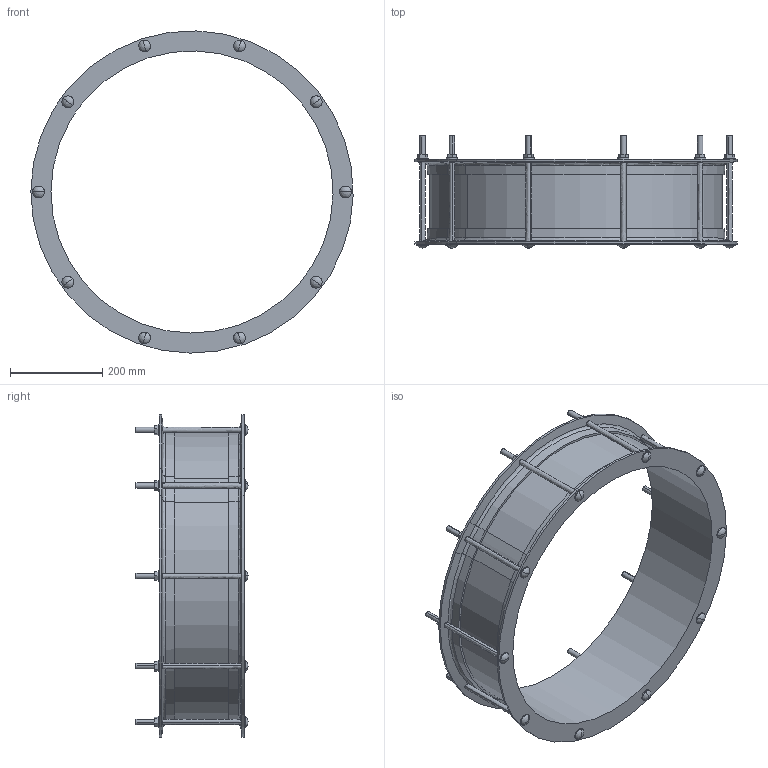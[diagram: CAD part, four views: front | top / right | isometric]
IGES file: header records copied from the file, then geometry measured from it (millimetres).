
Start section:  PTC IGES file: VJC_610.igs
Global section: file name: VJC_610.igs; native system: Creo Parametric by PTC Inc.; preprocessor: 2016130; author: mfairey; organization: Unknown; date: 20181206.102930; units: millimetre
Bounding box: 700.12 x 243.33 x 700.02 mm (x, y, z)
Surface area: 1103682.6 mm2 (no closed solid volume)
Topology: 0 solids, 0 shells, 214 faces, 1116 edges, 1096 vertices
Faces by surface type: revolution 120, bspline 94
